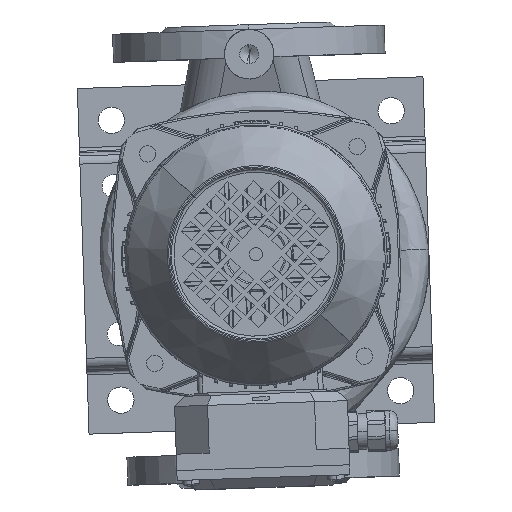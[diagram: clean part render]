
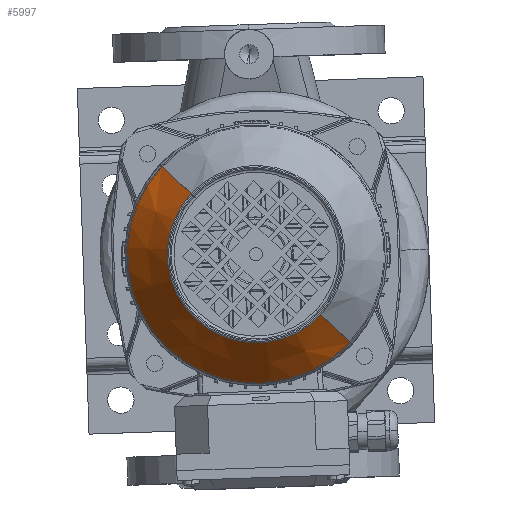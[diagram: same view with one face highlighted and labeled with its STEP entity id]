
A CAD part, top view. The second image highlights one B-rep face of the part: STEP entity #5997.
In plain terms, the highlighted conical face has half-angle 37 degrees and reference radius 53.876 mm.
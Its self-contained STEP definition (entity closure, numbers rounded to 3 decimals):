
#5997=ADVANCED_FACE('NONE',(#14718),#14719,.T.);
#14718=FACE_OUTER_BOUND('',#37008,.T.);
#14719=CONICAL_SURFACE('',#37009,53.876,0.646);
#37008=EDGE_LOOP('',(#55796,#55797,#55798,#55799));
#37009=AXIS2_PLACEMENT_3D('',#55800,#55801,#55802);
#55796=ORIENTED_EDGE('',*,*,#64165,.T.);
#55797=ORIENTED_EDGE('',*,*,#64243,.T.);
#55798=ORIENTED_EDGE('',*,*,#64166,.T.);
#55799=ORIENTED_EDGE('',*,*,#64269,.F.);
#55800=CARTESIAN_POINT('',(0.0,87.403,0.0));
#55801=DIRECTION('',(-0.0,-1.0,-0.0));
#55802=DIRECTION('',(0.0,0.0,-1.0));
#64165=EDGE_CURVE('',#76624,#76627,#76628,.T.);
#64166=EDGE_CURVE('',#76629,#76622,#76630,.T.);
#64243=EDGE_CURVE('NONE',#76627,#76629,#76761,.T.);
#64269=EDGE_CURVE('NONE',#76624,#76622,#76793,.T.);
#76622=VERTEX_POINT('',#102661);
#76624=VERTEX_POINT('NONE',#102663);
#76627=VERTEX_POINT('NONE',#102666);
#76628=LINE('',#102667,#102668);
#76629=VERTEX_POINT('',#102669);
#76630=LINE('',#102670,#102671);
#76761=CIRCLE('',#103160,78.592);
#76793=CIRCLE('',#103378,53.876);
#102661=CARTESIAN_POINT('',(0.,87.403,53.876));
#102663=CARTESIAN_POINT('',(0.,87.403,-53.876));
#102666=CARTESIAN_POINT('',(0.0,54.603,-78.592));
#102667=CARTESIAN_POINT('',(0.,87.403,-53.876));
#102668=VECTOR('',#114042,1.0);
#102669=CARTESIAN_POINT('',(0.,54.603,78.592));
#102670=CARTESIAN_POINT('',(0.,87.403,53.876));
#102671=VECTOR('',#114043,1.0);
#103160=AXIS2_PLACEMENT_3D('',#114170,#114171,#114172);
#103378=AXIS2_PLACEMENT_3D('',#114230,#114231,#114232);
#114042=DIRECTION('',(0.,-0.799,-0.602));
#114043=DIRECTION('',(0.,0.799,-0.602));
#114170=CARTESIAN_POINT('',(0.0,54.603,0.0));
#114171=DIRECTION('',(-0.0,1.0,0.0));
#114172=DIRECTION('',(0.0,0.0,1.0));
#114230=CARTESIAN_POINT('',(0.0,87.403,0.0));
#114231=DIRECTION('',(-0.0,1.0,0.0));
#114232=DIRECTION('',(0.0,0.0,1.0));
